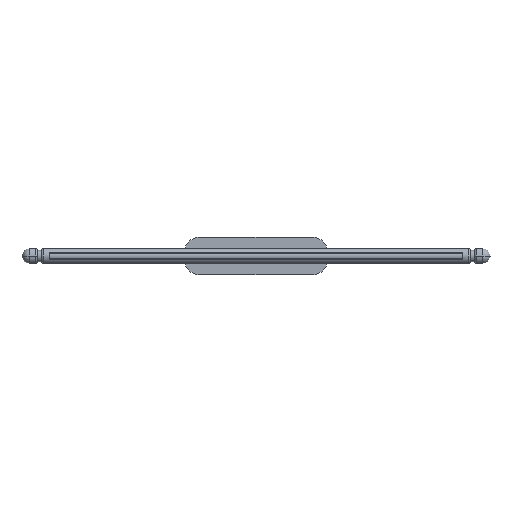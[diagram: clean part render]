
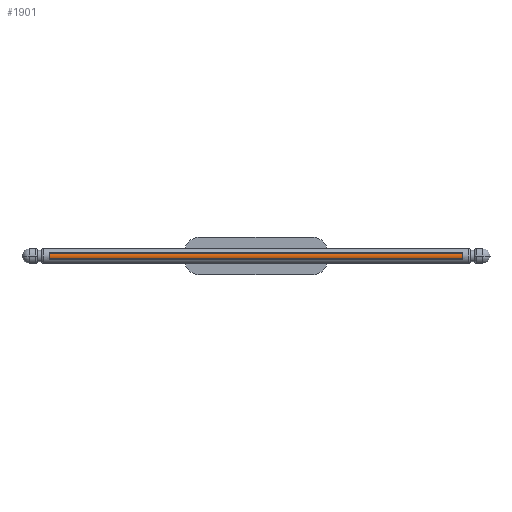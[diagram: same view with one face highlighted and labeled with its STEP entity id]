
A CAD part, front view. The second image highlights one B-rep face of the part: STEP entity #1901.
In plain terms, the highlighted cylindrical face has radius 20 mm (diameter 40 mm), a partial arc.
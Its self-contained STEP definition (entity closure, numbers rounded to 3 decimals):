
#113 = EDGE_CURVE ( 'NONE', #3897, #4778, #2559, .T. ) ;
#126 = VERTEX_POINT ( 'NONE', #1569 ) ;
#432 = DIRECTION ( 'NONE',  ( 1., 0., 0. ) ) ;
#810 = AXIS2_PLACEMENT_3D ( 'NONE', #4459, #3503, #432 ) ;
#1112 = DIRECTION ( 'NONE',  ( 0., 0., -1. ) ) ;
#1413 = EDGE_LOOP ( 'NONE', ( #1799, #1965, #3504, #4634 ) ) ;
#1513 = DIRECTION ( 'NONE',  ( 1., 0., 0. ) ) ;
#1569 = CARTESIAN_POINT ( 'NONE',  ( 9.625, -21.65, 1100. ) ) ;
#1747 = CIRCLE ( 'NONE', #810, 20. ) ;
#1799 = ORIENTED_EDGE ( 'NONE', *, *, #4605, .T. ) ;
#1901 = ADVANCED_FACE ( 'NONE', ( #3927 ), #4577, .T. ) ;
#1938 = DIRECTION ( 'NONE',  ( 0., 0., -1. ) ) ;
#1965 = ORIENTED_EDGE ( 'NONE', *, *, #4830, .F. ) ;
#2336 = CARTESIAN_POINT ( 'NONE',  ( -2., -5.375, 1100. ) ) ;
#2411 = CARTESIAN_POINT ( 'NONE',  ( -9.491, -23.92, 0. ) ) ;
#2559 = LINE ( 'NONE', #3543, #3127 ) ;
#2758 = AXIS2_PLACEMENT_3D ( 'NONE', #3843, #3453, #1513 ) ;
#2776 = LINE ( 'NONE', #3552, #3145 ) ;
#2798 = DIRECTION ( 'NONE',  ( -1., 0., 0. ) ) ;
#3127 = VECTOR ( 'NONE', #1938, 1000. ) ;
#3145 = VECTOR ( 'NONE', #3569, 1000. ) ;
#3453 = DIRECTION ( 'NONE',  ( 0., 0., 1. ) ) ;
#3458 = CIRCLE ( 'NONE', #2758, 20. ) ;
#3503 = DIRECTION ( 'NONE',  ( 0., 0., 1. ) ) ;
#3504 = ORIENTED_EDGE ( 'NONE', *, *, #4328, .F. ) ;
#3543 = CARTESIAN_POINT ( 'NONE',  ( -9.491, -23.92, 1100. ) ) ;
#3552 = CARTESIAN_POINT ( 'NONE',  ( 9.625, -21.65, 1100. ) ) ;
#3569 = DIRECTION ( 'NONE',  ( 0., 0., -1. ) ) ;
#3841 = VERTEX_POINT ( 'NONE', #3856 ) ;
#3843 = CARTESIAN_POINT ( 'NONE',  ( -2., -5.375, 0. ) ) ;
#3856 = CARTESIAN_POINT ( 'NONE',  ( 9.625, -21.65, 0. ) ) ;
#3897 = VERTEX_POINT ( 'NONE', #4240 ) ;
#3927 = FACE_OUTER_BOUND ( 'NONE', #1413, .T. ) ;
#4240 = CARTESIAN_POINT ( 'NONE',  ( -9.491, -23.92, 1100. ) ) ;
#4328 = EDGE_CURVE ( 'NONE', #3897, #126, #1747, .T. ) ;
#4459 = CARTESIAN_POINT ( 'NONE',  ( -2., -5.375, 1100. ) ) ;
#4577 = CYLINDRICAL_SURFACE ( 'NONE', #4676, 20. ) ;
#4605 = EDGE_CURVE ( 'NONE', #4778, #3841, #3458, .T. ) ;
#4634 = ORIENTED_EDGE ( 'NONE', *, *, #113, .T. ) ;
#4676 = AXIS2_PLACEMENT_3D ( 'NONE', #2336, #1112, #2798 ) ;
#4778 = VERTEX_POINT ( 'NONE', #2411 ) ;
#4830 = EDGE_CURVE ( 'NONE', #126, #3841, #2776, .T. ) ;
